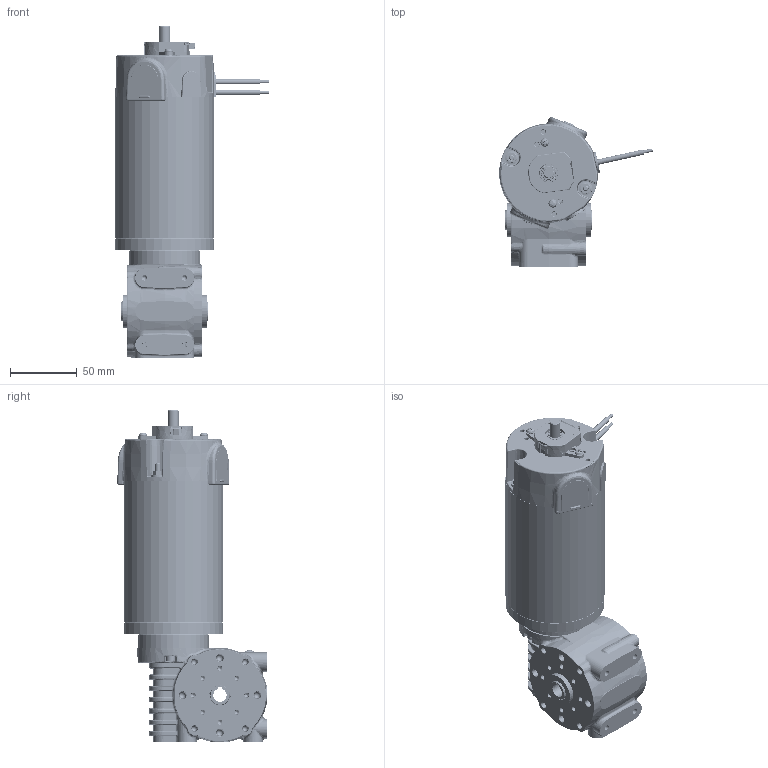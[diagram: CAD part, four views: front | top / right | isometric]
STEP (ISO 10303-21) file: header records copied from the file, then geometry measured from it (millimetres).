
FILE_DESCRIPTION (( 'STEP AP214' ), '1' );
FILE_NAME ('BRx70-60-GB80 - Diff Encoder.STEP', '2025-09-10T14:06:11', ( '' ), ( '' ), 'SwSTEP 2.0', 'SolidWorks 2023', '' );
FILE_SCHEMA (( 'AUTOMOTIVE_DESIGN' ));
Length unit declared in the file: millimetre
Products named in the file (1): BRx70-60-GB80 - Diff Encoder
Bounding box: 115.11 x 111.85 x 248.5 mm (x, y, z)
Volume: 463988.1 mm3; surface area: 223946 mm2
Topology: 54 solids, 54 shells, 10625 faces, 27977 edges, 18034 vertices
Faces by surface type: plane 5485, cylinder 3167, cone 766, bspline 672, torus 469, sphere 66
Entity records: 483076 total; most frequent: CARTESIAN_POINT 105728, ORIENTED_EDGE 55628, DIRECTION 52500, EDGE_CURVE 27814, VERTEX_POINT 18034, AXIS2_PLACEMENT_3D 17745, LINE 17010, VECTOR 17010
